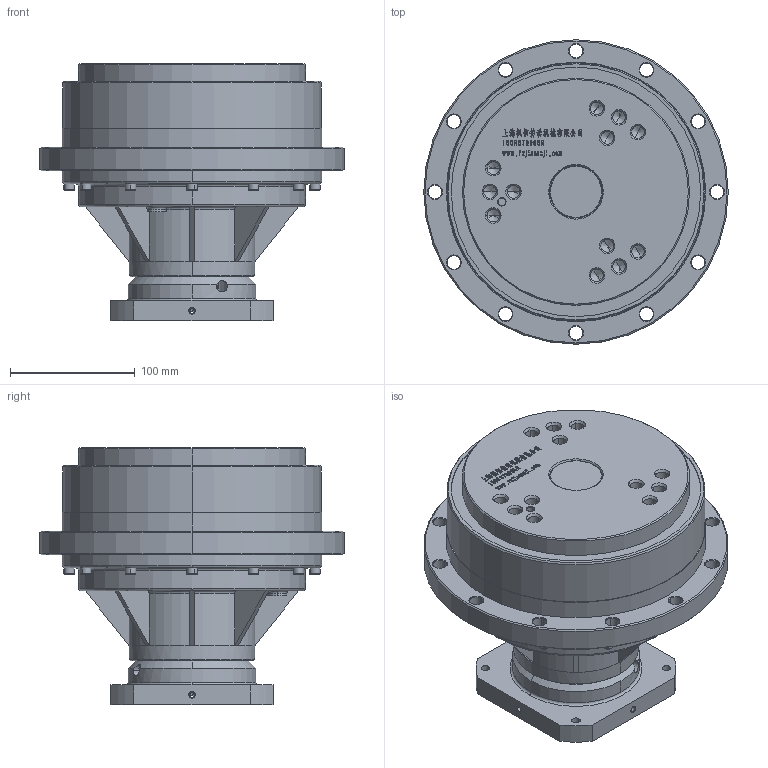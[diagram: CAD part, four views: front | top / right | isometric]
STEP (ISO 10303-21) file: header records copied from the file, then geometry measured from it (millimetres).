
FILE_DESCRIPTION (( 'STEP AP214' ), '1' );
FILE_NAME ('250BX-REA2-22-110145M8-M5x4.STEP', '2022-11-11T09:32:09', ( '' ), ( '' ), 'SwSTEP 2.0', 'SolidWorks 2020', '' );
FILE_SCHEMA (( 'AUTOMOTIVE_DESIGN' ));
Length unit declared in the file: millimetre
Products named in the file (13): 250BX-REA2-shaft22.stp; 蹟隊 GB_T 70.1 M5 x 30.stp; 250BX-REA2-01-22.stp; JIS B 2402 - 45 68 12 A(7).stp; 42傷裔蚐猾.stp; 250BX-REA2-22-110145M8-M5x4; 250BX-REA2-22-110145M8-M5x4.stp; 萇儂假蚾楊擘110-145H37-4M.stp; 蹟隊 GB_T 70.1 M8 x 30.stp; 粣創 6009-2Z GB_T 276-94.stp; 250BX-REA2-00.stp; DIN 908 - M10 x 1.stp; 錨璃1290^250BX-REA2-22-110145M8-M5x4
Assembly tree (28 placements, depth 3):
  250BX-REA2-22-110145M8-M5x4
    250BX-REA2-22-110145M8-M5x4.stp
      250BX-REA2-01-22.stp
      250BX-REA2-00.stp
      粣創 6009-2Z GB_T 276-94.stp
      萇儂假蚾楊擘110-145H37-4M.stp
      DIN 908 - M10 x 1.stp
      蹟隊 GB_T 70.1 M8 x 30.stp  x6
      蹟隊 GB_T 70.1 M5 x 30.stp  x12
      250BX-REA2-shaft22.stp
      JIS B 2402 - 45 68 12 A(7).stp
      42傷裔蚐猾.stp
    錨璃1290^250BX-REA2-22-110145M8-M5x4
Bounding box: 244 x 244 x 206.2 mm (x, y, z)
Volume: 3930900.6 mm3; surface area: 511346.2 mm2
Topology: 105 solids, 108 shells, 3186 faces, 8162 edges, 5200 vertices
Faces by surface type: plane 1452, bspline 570, cylinder 528, cone 450, torus 162, sphere 24
Entity records: 130262 total; most frequent: CARTESIAN_POINT 45616, ORIENTED_EDGE 14360, DIRECTION 11615, EDGE_CURVE 7180, VERTEX_POINT 4636, VECTOR 4539, LINE 4539, AXIS2_PLACEMENT_3D 3538
